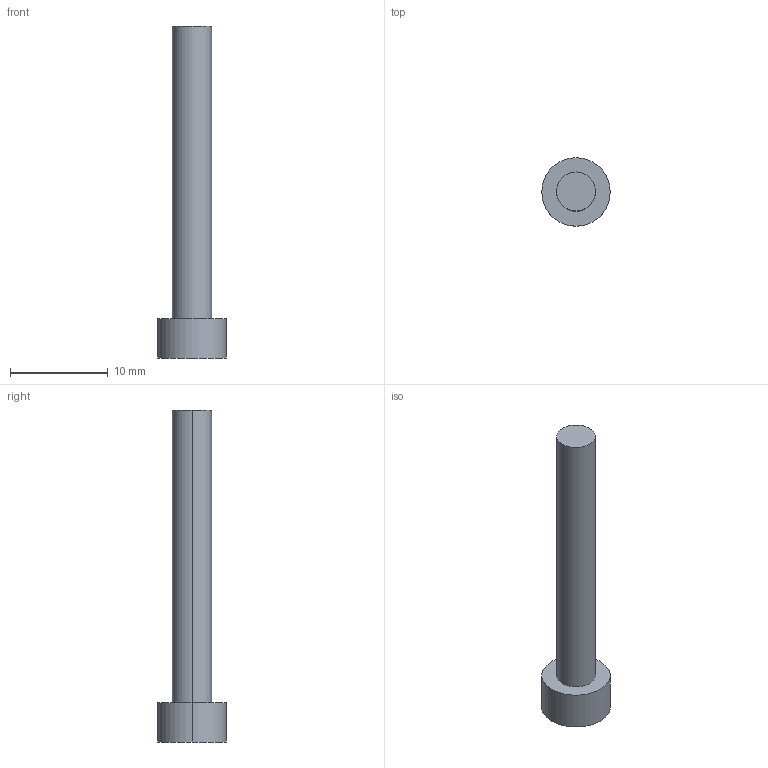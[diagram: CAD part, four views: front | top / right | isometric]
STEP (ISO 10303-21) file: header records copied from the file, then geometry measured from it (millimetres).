
FILE_DESCRIPTION (( 'STEP AP203' ), '1' );
FILE_NAME ('REF_M4x30_screw.step', '2026-10-07T08:22:51', ( '' ), ( '' ), 'SwSTEP 2.0', 'SolidWorks 2025', '' );
FILE_SCHEMA (( 'CONFIG_CONTROL_DESIGN' ));
Length unit declared in the file: millimetre
Products named in the file (1): REF_M4x30_screw
Bounding box: 7 x 7 x 34 mm (x, y, z)
Volume: 530.9 mm3; surface area: 541.9 mm2
Topology: 1 solids, 1 shells, 7 faces, 12 edges, 8 vertices
Faces by surface type: cylinder 4, plane 3
Entity records: 251 total; most frequent: DIRECTION 36, CARTESIAN_POINT 28, ORIENTED_EDGE 24, AXIS2_PLACEMENT_3D 16, EDGE_CURVE 12, CIRCLE 8, PERSON_AND_ORGANIZATION 8, EDGE_LOOP 8
